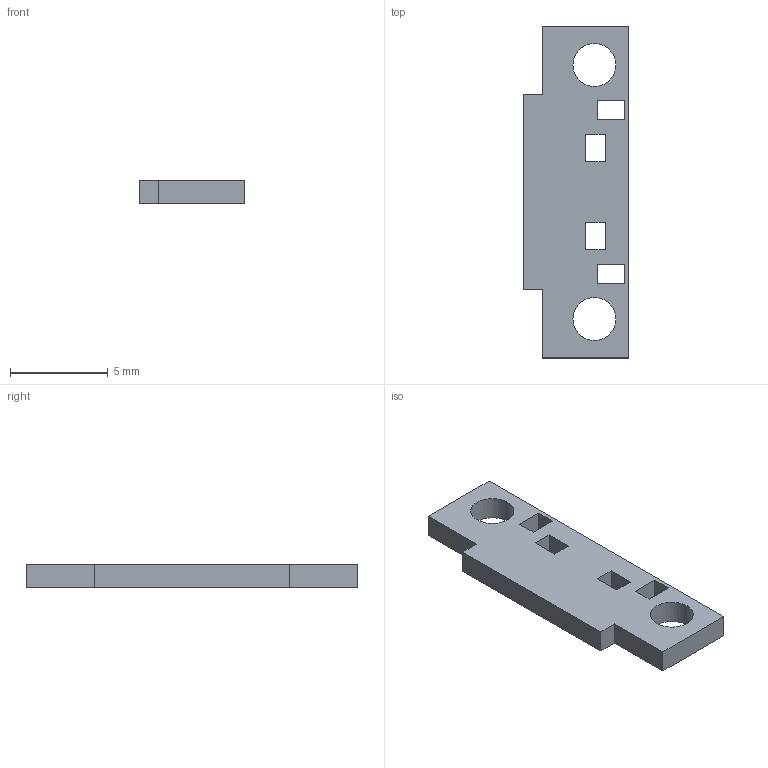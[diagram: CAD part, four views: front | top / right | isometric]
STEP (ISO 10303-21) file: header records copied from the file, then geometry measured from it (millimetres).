
FILE_DESCRIPTION(('Open CASCADE Model'),'2;1');
FILE_NAME('Open CASCADE Shape Model','2026-09-08T16:14:22',('Author'),( 'Open CASCADE'),'Open CASCADE STEP processor 7.7','Open CASCADE 7.7' ,'Unknown');
FILE_SCHEMA(('AUTOMOTIVE_DESIGN { 1 0 10303 214 1 1 1 1 }'));
Length unit declared in the file: millimetre
Products named in the file (1): Open CASCADE STEP translator 7.7 30
Bounding box: 5.41 x 17 x 1.2 mm (x, y, z)
Volume: 86.1 mm3; surface area: 236.9 mm2
Topology: 1 solids, 1 shells, 28 faces, 78 edges, 52 vertices
Faces by surface type: plane 26, cylinder 2
Full cylindrical faces by diameter (mm): 2.2 x2
Entity records: 1926 total; most frequent: CARTESIAN_POINT 323, DIRECTION 288, LINE 218, VECTOR 218, ORIENTED_EDGE 156, PCURVE 156, DEFINITIONAL_REPRESENTATION 156, EDGE_CURVE 78
